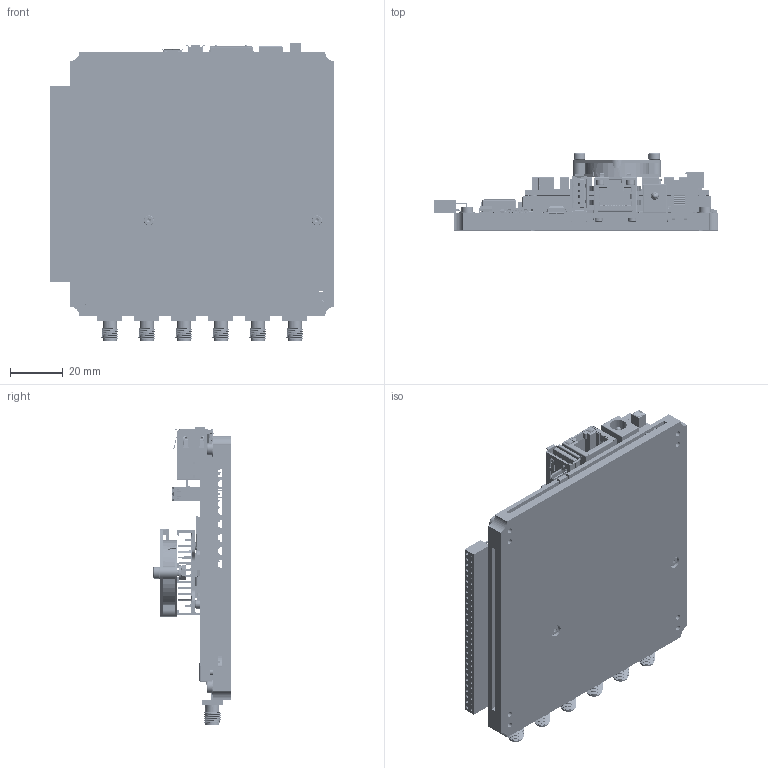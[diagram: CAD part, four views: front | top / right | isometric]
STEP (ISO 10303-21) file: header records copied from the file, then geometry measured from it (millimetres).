
FILE_DESCRIPTION(/* description */ ('STEP AP214'),/* implementation_level */ '2;1');
FILE_NAME(/* name */ '60f58971e804082983334f91',/* time_stamp */ '2021-07-19T14:18:46+00:00',/* author */ (''),/* organization */ (''),/* preprocessor_version */ 'ST-DEVELOPER v18.1',/* originating_system */ ' ',/* authorisation */ ' ');
FILE_SCHEMA (('AUTOMOTIVE_DESIGN {1 0 10303 214 3 1 1}'));
Products named in the file (1645): ALPHA250+SOM+BP_V4.0.1; ALPHA250_5; ALPHA250_250; --_17_3; ALPHA250; ALPHA250_3; ALPHA250_73; ALPHA250_1; ALPHA250_270; ALPHA250_2; ALPHA250_359; ALPHA250_283; ALPHA250_223; ALPHA250_236; ALPHA250_145; ALPHA250_4; ALPHA250_295; ALPHA250_349; ALPHA250_344; ALPHA250_140; ALPHA250_228; --_3_16; ALPHA250_192; ALPHA250_323; --_32; ALPHA250_172; ALPHA250_23; 695_2.2x4x4_round-spacer_1; ALPHA250_171; ALPHA250_40; ALPHA250_78; ALPHA250_6; ALPHA250_308; --_3_10; ALPHA250_8; ALPHA250_101; ALPHA250_45; ALPHA250_164; --_4; ALPHA250_346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
Assembly tree (1594 placements, depth 2):
  ALPHA250+SOM+BP_V4.0.1
    ALPHA250_5
    ALPHA250_250
    --_17_3
    ALPHA250
    ALPHA250
    ALPHA250_3
    ALPHA250_73
    ALPHA250
    ALPHA250
    ALPHA250_1
    ALPHA250_270
    ALPHA250_2
    ALPHA250
    ALPHA250_359
    ALPHA250
    ALPHA250
    ALPHA250_283
    ALPHA250_1
    ALPHA250
    ALPHA250
    ALPHA250
    ALPHA250_223
    ALPHA250
    ALPHA250
    ALPHA250_236
    ALPHA250_5
    ALPHA250_3
    ALPHA250_5
    ALPHA250
    ALPHA250
    ALPHA250_1
    ALPHA250
    ALPHA250_145
    ALPHA250_5
    ALPHA250
    ALPHA250_4
    ALPHA250_295
    ALPHA250_349
    ALPHA250
    ALPHA250
    ALPHA250_344
    ALPHA250
    ALPHA250_140
    ALPHA250_1
    ALPHA250_228
    ALPHA250_5
    --_3_16
    ALPHA250
    ALPHA250_192
    ALPHA250_323
    ALPHA250
    --_32
    ALPHA250
    ALPHA250
    ALPHA250
    ALPHA250_172
    ALPHA250
    ALPHA250
    ALPHA250
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Bounding box: 107.78 x 29.16 x 112.89 mm (x, y, z)
Volume: 79335.1 mm3; surface area: 105903.4 mm2
Topology: 1649 solids, 1657 shells, 41673 faces, 108178 edges, 69758 vertices
Faces by surface type: plane 34319, cylinder 6416, bspline 533, cone 187, sphere 144, torus 74
Full cylindrical faces by diameter (mm): 0.2 x3, 0.207 x6, 0.216 x1, 0.25 x162, 0.3 x5, 0.35 x1, 0.368 x2, 0.38 x2, 0.4 x16, 0.461 x1, 0.5 x2, 0.6 x2, 0.7 x1, 0.75 x2, 0.76 x6, 0.8 x17, 0.85 x1, 0.87 x1, 0.889 x62, 0.9 x4, 1 x1, 1.016 x8, 1.1 x2, 1.25 x6, 1.35 x2, 1.37 x1, 1.5 x48, 1.567 x4, 1.6 x1, 1.7 x2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
Entity records: 1303507 total; most frequent: CARTESIAN_POINT 258267, ORIENTED_EDGE 206978, DIRECTION 196856, EDGE_CURVE 103489, LINE 87352, VECTOR 87352, VERTEX_POINT 67061, AXIS2_PLACEMENT_3D 54752
